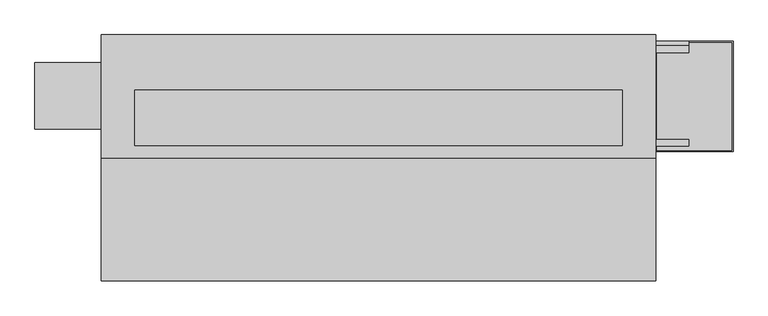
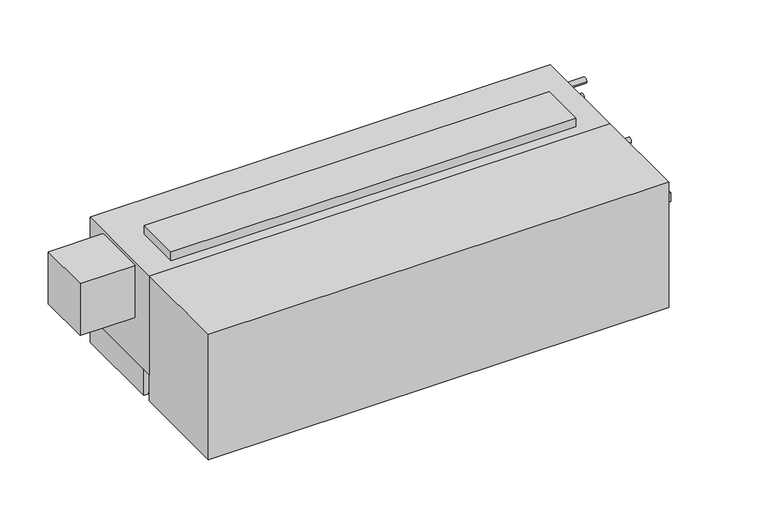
"""IFC4 building model written with IfcOpenShell, lengths in millimetres: proxy geometry, Concealed_Vertical_Low_Boy_Fan_Coil_Unit Fan_-_LHA_-_IEC_-_4-Pipe_RH_2022 : Size 06 - 277v/60Hz/1Ph - 2/1 Coil."""

from ifc_helpers import new_model, si_unit, point, frame, frame_2d, origin, origin_with_axes, place, context, project, spatial, polyline, circle_curve, trimmed, segment, composite_curve, outline, extrude, faceted_brep, source, transform, mapped, element, save


def mechanical_equipment_693dfed8(model_context):
    return source(origin(), model_context, "Body", "SolidModel", [
        faceted_brep([(1600.2, -252.4125, 92.075), (1422.4, -252.4125, 92.075), (1422.4, -506.4125, 92.075), (1600.2, -506.4125, 92.075), (1425.575, -255.5875, 92.075), (1597.025, -255.5875, 92.075), (1597.025, -503.2375, 92.075), (1425.575, -503.2375, 92.075), (1600.2, -252.4125, 66.675), (1600.2, -506.4125, 66.675), (1422.4, -506.4125, 66.675), (1422.4, -252.4125, 66.675), (1597.025, -255.5875, 69.8497888), (1425.575, -255.5875, 69.8497888), (1425.575, -503.2375, 69.8497888), (1597.025, -503.2375, 69.8497888)], [[[0, 1, 2, 3], [4, 5, 6, 7]], [[8, 9, 10, 11]], [[1, 0, 8, 11]], [[2, 1, 11, 10]], [[3, 2, 10, 9]], [[0, 3, 9, 8]], [[12, 13, 14, 15]], [[13, 12, 5, 4]], [[14, 13, 4, 7]], [[15, 14, 7, 6]], [[12, 15, 6, 5]]]),
        extrude(outline(composite_curve([segment(trimmed(circle_curve(frame_2d((1511.3, -379.4125)), 9.525), [point((1501.775, -379.4125))], [point((1520.825, -379.4125))], False, "CARTESIAN"), True, "CONTINUOUS"), segment(trimmed(circle_curve(frame_2d((1511.3, -379.4125)), 9.525), [point((1520.825, -379.4125))], [point((1501.775, -379.4125))], False, "CARTESIAN"), True, "CONTINUOUS")], self_intersect=False)), frame((0.0, 0.0, 41.275), z_axis=(0.0, 0.0, 1.0), x_axis=(1.0, 0.0, 0.0)), (0.0, 0.0, 1.0), 25.4),
        extrude(outline(polyline([(222.6730703, 1306.5868862), (212.725, 1338.7602728), (354.8959244, 1338.7602728), (331.8739183, 1306.5868862), (222.6730703, 1306.5868862)])), frame((0.0, -523.875, 0.0), z_axis=(0.0, 1.0, 0.0), x_axis=(0.0, 0.0, 1.0)), (0.0, 0.0, 1.0), 3.175),
        extrude(outline(polyline([(301.6723557, 1345.5186058), (298.4699632, 1371.6), (327.6988042, 1371.6), (335.7632193, 1345.5186058), (301.6723557, 1345.5186058)])), frame((0.0, -523.875, 0.0), z_axis=(0.0, 1.0, 0.0), x_axis=(0.0, 0.0, 1.0)), (0.0, 0.0, 1.0), 3.175),
        extrude(outline(polyline([(249.8088288, 1371.6), (246.1433279, 1345.5186058), (212.725, 1345.5186058), (221.3592372, 1371.6), (249.8088288, 1371.6)])), frame((0.0, -523.875, 0.0), z_axis=(0.0, 1.0, 0.0), x_axis=(0.0, 0.0, 1.0)), (0.0, 0.0, 1.0), 3.175),
        extrude(outline(polyline([(289.1239903, 1371.6), (291.4058166, 1345.5186058), (255.4682681, 1345.5186058), (258.2095331, 1371.6), (289.1239903, 1371.6)])), frame((0.0, -523.875, 0.0), z_axis=(0.0, 1.0, 0.0), x_axis=(0.0, 0.0, 1.0)), (0.0, 0.0, 1.0), 3.175),
        extrude(outline(polyline([(1346.2, -365.125), (1346.2, -492.125), (228.6, -492.125), (228.6, -365.125), (1346.2, -365.125)])), frame((0.0, 0.0, 365.125), z_axis=(0.0, 0.0, 1.0), x_axis=(1.0, 0.0, 0.0)), (0.0, 0.0, 1.0), 25.4),
        extrude(outline(polyline([(1422.4, -520.7), (152.4, -520.7), (152.4, -238.125), (1422.4, -238.125), (1422.4, -520.7)])), frame((0.0, 0.0, 76.2), z_axis=(0.0, 0.0, 1.0), x_axis=(1.0, 0.0, 0.0)), (0.0, 0.0, 1.0), 288.925),
        extrude(outline(polyline([(1409.7, -495.3), (165.1, -495.3), (165.1, -244.475), (1409.7, -244.475), (1409.7, -495.3)])), origin_with_axes(), (0.0, 0.0, 1.0), 6.35),
        extrude(outline(polyline([(1409.7, -238.125), (1409.7, -244.475), (165.1, -244.475), (165.1, -238.125), (1409.7, -238.125)])), origin_with_axes(), (0.0, 0.0, 1.0), 76.2),
        extrude(outline(polyline([(1422.4, -238.125), (1422.4, -495.3), (1409.7, -495.3), (1409.7, -238.125), (1422.4, -238.125)])), origin_with_axes(), (0.0, 0.0, 1.0), 76.2),
        extrude(outline(polyline([(165.1, -238.125), (165.1, -495.3), (152.4, -495.3), (152.4, -238.125), (165.1, -238.125)])), origin_with_axes(), (0.0, 0.0, 1.0), 76.2),
        extrude(outline(composite_curve([segment(trimmed(circle_curve(frame_2d((-271.4625, 314.325)), 7.9375), [point((-263.525, 314.325))], [point((-279.4, 314.325))], False, "CARTESIAN"), True, "CONTINUOUS"), segment(trimmed(circle_curve(frame_2d((-271.4625, 314.325)), 7.9375), [point((-279.4, 314.325))], [point((-263.525, 314.325))], False, "CARTESIAN"), True, "CONTINUOUS")], self_intersect=False)), frame((1422.4, 0.0, 0.0), z_axis=(1.0, 0.0, 0.0), x_axis=(0.0, 1.0, 0.0)), (0.0, 0.0, 1.0), 76.2),
        extrude(outline(composite_curve([segment(trimmed(circle_curve(frame_2d((-260.35, 260.35)), 7.9375), [point((-252.4125, 260.35))], [point((-268.2875, 260.35))], False, "CARTESIAN"), True, "CONTINUOUS"), segment(trimmed(circle_curve(frame_2d((-260.35, 260.35)), 7.9375), [point((-268.2875, 260.35))], [point((-252.4125, 260.35))], False, "CARTESIAN"), True, "CONTINUOUS")], self_intersect=False)), frame((1422.4, 0.0, 0.0), z_axis=(1.0, 0.0, 0.0), x_axis=(0.0, 1.0, 0.0)), (0.0, 0.0, 1.0), 76.2),
        extrude(outline(composite_curve([segment(trimmed(circle_curve(frame_2d((-485.775, 227.0125)), 7.9375), [point((-477.8375, 227.0125))], [point((-493.7125, 227.0125))], False, "CARTESIAN"), True, "CONTINUOUS"), segment(trimmed(circle_curve(frame_2d((-485.775, 227.0125)), 7.9375), [point((-493.7125, 227.0125))], [point((-477.8375, 227.0125))], False, "CARTESIAN"), True, "CONTINUOUS")], self_intersect=False)), frame((1422.4, 0.0, 0.0), z_axis=(1.0, 0.0, 0.0), x_axis=(0.0, 1.0, 0.0)), (0.0, 0.0, 1.0), 76.2),
        extrude(outline(composite_curve([segment(trimmed(circle_curve(frame_2d((-485.775, 268.2875)), 7.9375), [point((-477.8375, 268.2875))], [point((-493.7125, 268.2875))], False, "CARTESIAN"), True, "CONTINUOUS"), segment(trimmed(circle_curve(frame_2d((-485.775, 268.2875)), 7.9375), [point((-493.7125, 268.2875))], [point((-477.8375, 268.2875))], False, "CARTESIAN"), True, "CONTINUOUS")], self_intersect=False)), frame((1422.4, 0.0, 0.0), z_axis=(1.0, 0.0, 0.0), x_axis=(0.0, 1.0, 0.0)), (0.0, 0.0, 1.0), 76.2),
        extrude(outline(polyline([(0.0, -301.625), (152.4, -301.625), (152.4, -454.025), (0.0, -454.025), (0.0, -301.625)])), frame((0.0, 0.0, 203.5632719), z_axis=(0.0, 0.0, 1.0), x_axis=(1.0, 0.0, 0.0)), (0.0, 0.0, 1.0), 152.0367281),
        extrude(outline(polyline([(1422.4, -803.275), (152.4, -803.275), (152.4, -520.7), (1422.4, -520.7), (1422.4, -803.275)])), origin_with_axes(), (0.0, 0.0, 1.0), 365.125),
    ])


if __name__ == "__main__":
    model = new_model("IFC4")
    model_context = context("Model", 3, world=origin())
    ifc_project = project(units=[si_unit("LENGTHUNIT", "METRE", prefix="MILLI")], contexts=[model_context])
    site = spatial("IfcSite", under=ifc_project)
    building = spatial("IfcBuilding", under=site)
    placement = place(None, origin())
    mechanical_equipment_shape = mechanical_equipment_693dfed8(model_context)
    element("IfcBuildingElementProxy", 1, Name="Concealed_Vertical_Low_Boy_Fan_Coil_Unit Fan_-_LHA_-_IEC_-_4-Pipe_RH_2022 : Size 06 - 277v/60Hz/1Ph - 2/1 Coil", ObjectType="Concealed_Vertical_Low_Boy_Fan_Coil_Unit Fan_-_LHA_-_IEC_-_4-Pipe_RH_2022 : Size 06 - 277v/60Hz/1Ph - 2/1 Coil", at=placement, inside=building, context=model_context, shape_type="MappedRepresentation", body=[
        mapped(mechanical_equipment_shape, transform((0.0, 0.0, 0.0), x_axis=(1.0, 0.0, 0.0), y_axis=(0.0, 1.0, 0.0), z_axis=(0.0, 0.0, 1.0))),
    ])
    save(model, "model.ifc")
